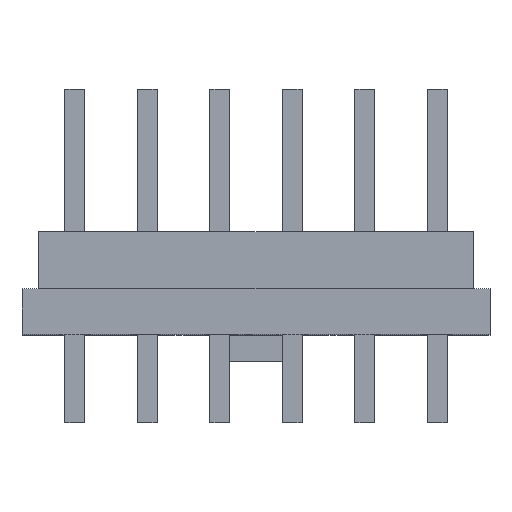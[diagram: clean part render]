
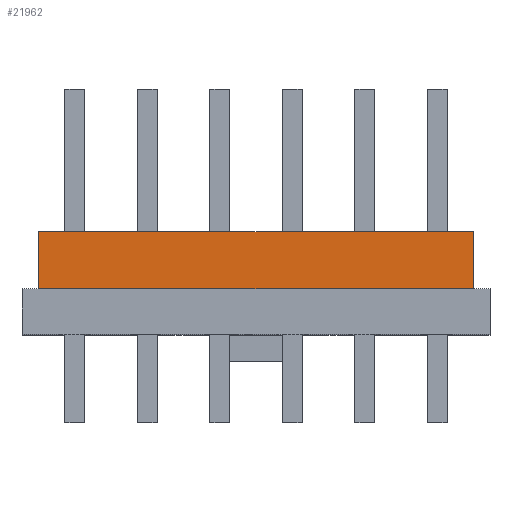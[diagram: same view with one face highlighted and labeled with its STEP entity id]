
A CAD part, top view. The second image highlights one B-rep face of the part: STEP entity #21962.
In plain terms, the highlighted planar face has unit normal (0, 0, 1).
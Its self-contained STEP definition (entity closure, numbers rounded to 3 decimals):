
#2916=FACE_OUTER_BOUND('',#4186,.T.);
#4186=EDGE_LOOP('',(#14654,#14655,#14656,#14657));
#5522=LINE('',#26119,#7176);
#5526=LINE('',#26139,#7180);
#5529=LINE('',#26145,#7183);
#5530=LINE('',#26146,#7184);
#7176=VECTOR('',#23671,10.);
#7180=VECTOR('',#23689,10.);
#7183=VECTOR('',#23694,10.);
#7184=VECTOR('',#23695,10.);
#8830=VERTEX_POINT('',#26117);
#8831=VERTEX_POINT('',#26118);
#8840=VERTEX_POINT('',#26138);
#8842=VERTEX_POINT('',#26144);
#11154=EDGE_CURVE('',#8830,#8831,#5522,.T.);
#11164=EDGE_CURVE('',#8830,#8840,#5526,.T.);
#11167=EDGE_CURVE('',#8831,#8842,#5529,.T.);
#11168=EDGE_CURVE('',#8840,#8842,#5530,.T.);
#14654=ORIENTED_EDGE('',*,*,#11154,.T.);
#14655=ORIENTED_EDGE('',*,*,#11167,.T.);
#14656=ORIENTED_EDGE('',*,*,#11168,.F.);
#14657=ORIENTED_EDGE('',*,*,#11164,.F.);
#21614=PLANE('',#23279);
#21962=ADVANCED_FACE('',(#2916),#21614,.T.);
#23279=AXIS2_PLACEMENT_3D('',#26143,#23692,#23693);
#23671=DIRECTION('',(1.,0.,0.));
#23689=DIRECTION('',(0.,1.,0.));
#23692=DIRECTION('center_axis',(0.,0.,1.));
#23693=DIRECTION('ref_axis',(1.,0.,0.));
#23694=DIRECTION('',(0.,1.,0.));
#23695=DIRECTION('',(1.,0.,0.));
#26117=CARTESIAN_POINT('',(11.27,0.6,9.17));
#26118=CARTESIAN_POINT('',(26.51,0.6,9.17));
#26119=CARTESIAN_POINT('',(15.08,0.6,9.17));
#26138=CARTESIAN_POINT('',(11.27,2.6,9.17));
#26139=CARTESIAN_POINT('',(11.27,-1.,9.17));
#26143=CARTESIAN_POINT('Origin',(11.27,-1.,9.17));
#26144=CARTESIAN_POINT('',(26.51,2.6,9.17));
#26145=CARTESIAN_POINT('',(26.51,-1.,9.17));
#26146=CARTESIAN_POINT('',(11.27,2.6,9.17));
